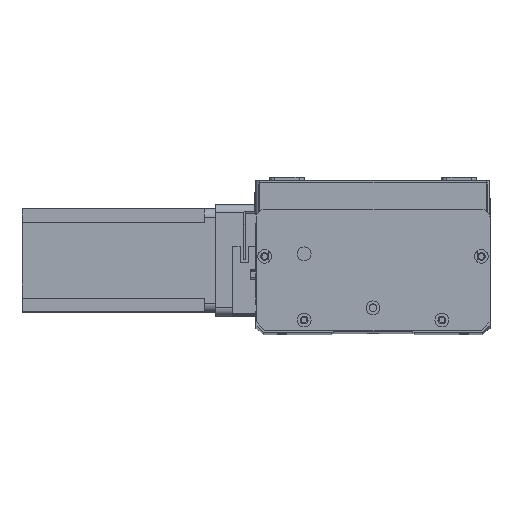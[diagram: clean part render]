
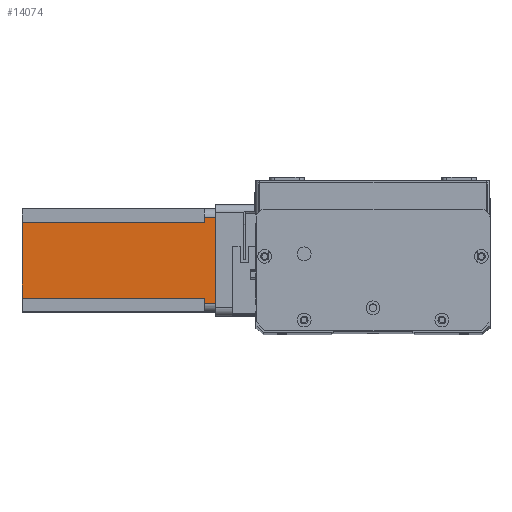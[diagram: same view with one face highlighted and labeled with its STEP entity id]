
A CAD part, top view. The second image highlights one B-rep face of the part: STEP entity #14074.
In plain terms, the highlighted planar face has unit normal (0, 0, 1) as drawn and (0, -1, 0) by its records, which use the part's own axes.
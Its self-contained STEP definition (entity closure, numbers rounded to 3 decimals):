
#211 = VERTEX_POINT ( 'NONE', #4309 ) ;
#282 = VERTEX_POINT ( 'NONE', #13051 ) ;
#618 = CARTESIAN_POINT ( 'NONE',  ( 5., 0., -6.5 ) ) ;
#757 = DIRECTION ( 'NONE',  ( 0., 0., -1. ) ) ;
#1179 = DIRECTION ( 'NONE',  ( 0., -1., 0. ) ) ;
#1331 = CARTESIAN_POINT ( 'NONE',  ( 0., 0., 0. ) ) ;
#1518 = CARTESIAN_POINT ( 'NONE',  ( 8., 0., -112.5 ) ) ;
#1861 = LINE ( 'NONE', #6921, #5219 ) ;
#3118 = EDGE_CURVE ( 'NONE', #11142, #5776, #22256, .T. ) ;
#3127 = EDGE_CURVE ( 'NONE', #282, #25561, #25669, .T. ) ;
#3150 = LINE ( 'NONE', #1518, #13063 ) ;
#3425 = ORIENTED_EDGE ( 'NONE', *, *, #21735, .T. ) ;
#3902 = VERTEX_POINT ( 'NONE', #24679 ) ;
#4136 = CARTESIAN_POINT ( 'NONE',  ( 8., 0., -6.5 ) ) ;
#4309 = CARTESIAN_POINT ( 'NONE',  ( 55., 0., 0. ) ) ;
#4324 = ORIENTED_EDGE ( 'NONE', *, *, #3127, .T. ) ;
#4611 = EDGE_CURVE ( 'NONE', #7282, #5776, #12314, .T. ) ;
#5219 = VECTOR ( 'NONE', #8941, 1000. ) ;
#5731 = CARTESIAN_POINT ( 'NONE',  ( 5., 0., 0. ) ) ;
#5776 = VERTEX_POINT ( 'NONE', #618 ) ;
#5801 = VECTOR ( 'NONE', #11681, 1000. ) ;
#6921 = CARTESIAN_POINT ( 'NONE',  ( 55., 0., -112.5 ) ) ;
#7038 = PLANE ( 'NONE',  #16301 ) ;
#7226 = CARTESIAN_POINT ( 'NONE',  ( 52., 0., -112.5 ) ) ;
#7278 = DIRECTION ( 'NONE',  ( 1., 0., 0. ) ) ;
#7282 = VERTEX_POINT ( 'NONE', #4136 ) ;
#7284 = EDGE_LOOP ( 'NONE', ( #4324, #10766, #12381, #7976, #19354, #22770, #3425, #9007 ) ) ;
#7403 = VECTOR ( 'NONE', #7278, 1000. ) ;
#7976 = ORIENTED_EDGE ( 'NONE', *, *, #3118, .T. ) ;
#8540 = VERTEX_POINT ( 'NONE', #7226 ) ;
#8941 = DIRECTION ( 'NONE',  ( 0., 0., 1. ) ) ;
#9007 = ORIENTED_EDGE ( 'NONE', *, *, #14543, .F. ) ;
#9419 = LINE ( 'NONE', #9676, #24624 ) ;
#9676 = CARTESIAN_POINT ( 'NONE',  ( 0., 0., -112.5 ) ) ;
#9975 = CARTESIAN_POINT ( 'NONE',  ( 8., 0., -6.5 ) ) ;
#10182 = CARTESIAN_POINT ( 'NONE',  ( 55., 0., -6.5 ) ) ;
#10414 = LINE ( 'NONE', #16580, #25006 ) ;
#10766 = ORIENTED_EDGE ( 'NONE', *, *, #24660, .T. ) ;
#11142 = VERTEX_POINT ( 'NONE', #5731 ) ;
#11681 = DIRECTION ( 'NONE',  ( 1., 0., 0. ) ) ;
#11977 = DIRECTION ( 'NONE',  ( -1., 0., 0. ) ) ;
#12314 = LINE ( 'NONE', #9975, #21629 ) ;
#12381 = ORIENTED_EDGE ( 'NONE', *, *, #24748, .F. ) ;
#12655 = LINE ( 'NONE', #1331, #7403 ) ;
#13051 = CARTESIAN_POINT ( 'NONE',  ( 52., 0., -6.5 ) ) ;
#13063 = VECTOR ( 'NONE', #23346, 1000. ) ;
#14074 = ADVANCED_FACE ( 'NONE', ( #14475 ), #7038, .T. ) ;
#14475 = FACE_OUTER_BOUND ( 'NONE', #7284, .T. ) ;
#14543 = EDGE_CURVE ( 'NONE', #282, #8540, #10414, .T. ) ;
#14999 = DIRECTION ( 'NONE',  ( 0., 0., -1. ) ) ;
#15585 = DIRECTION ( 'NONE',  ( 0., 0., -1. ) ) ;
#15739 = VECTOR ( 'NONE', #15585, 1000. ) ;
#16301 = AXIS2_PLACEMENT_3D ( 'NONE', #18917, #1179, #14999 ) ;
#16580 = CARTESIAN_POINT ( 'NONE',  ( 52., 0., -112.5 ) ) ;
#17502 = EDGE_CURVE ( 'NONE', #3902, #7282, #3150, .T. ) ;
#18917 = CARTESIAN_POINT ( 'NONE',  ( 0., 0., -112.5 ) ) ;
#19354 = ORIENTED_EDGE ( 'NONE', *, *, #4611, .F. ) ;
#19656 = CARTESIAN_POINT ( 'NONE',  ( 52., 0., -6.5 ) ) ;
#21404 = DIRECTION ( 'NONE',  ( 1., 0., 0. ) ) ;
#21629 = VECTOR ( 'NONE', #11977, 1000. ) ;
#21735 = EDGE_CURVE ( 'NONE', #3902, #8540, #9419, .T. ) ;
#22256 = LINE ( 'NONE', #23594, #15739 ) ;
#22770 = ORIENTED_EDGE ( 'NONE', *, *, #17502, .F. ) ;
#23346 = DIRECTION ( 'NONE',  ( 0., 0., 1. ) ) ;
#23594 = CARTESIAN_POINT ( 'NONE',  ( 5., 0., -112.5 ) ) ;
#24624 = VECTOR ( 'NONE', #21404, 1000. ) ;
#24660 = EDGE_CURVE ( 'NONE', #25561, #211, #1861, .T. ) ;
#24679 = CARTESIAN_POINT ( 'NONE',  ( 8., 0., -112.5 ) ) ;
#24748 = EDGE_CURVE ( 'NONE', #11142, #211, #12655, .T. ) ;
#25006 = VECTOR ( 'NONE', #757, 1000. ) ;
#25561 = VERTEX_POINT ( 'NONE', #10182 ) ;
#25669 = LINE ( 'NONE', #19656, #5801 ) ;
